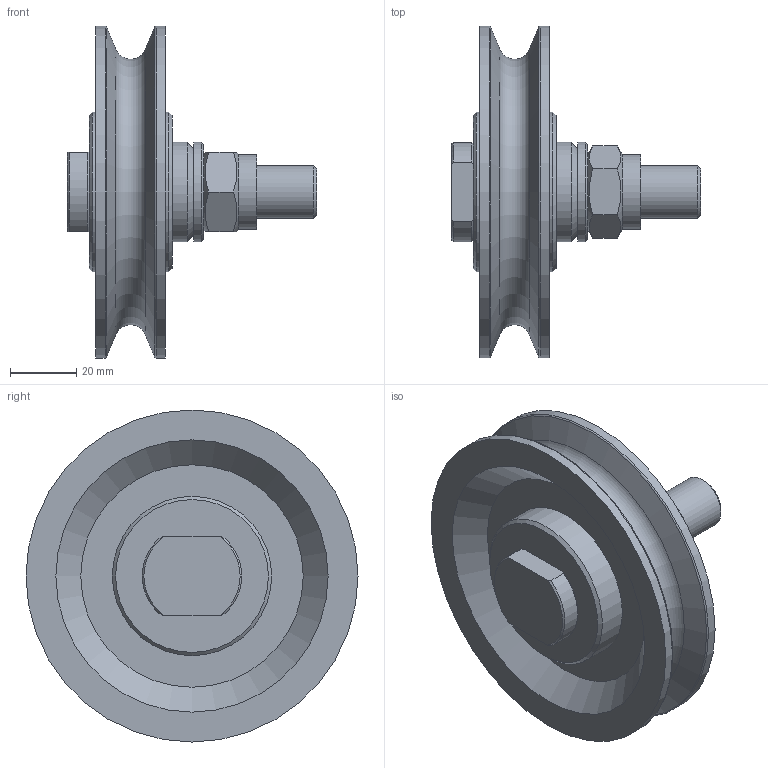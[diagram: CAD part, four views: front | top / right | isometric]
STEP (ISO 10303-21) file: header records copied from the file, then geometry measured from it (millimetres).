
FILE_DESCRIPTION(/* description */ ('Seilrolle ø100 feststehende Achse VA'),/* implementation_level */ '2;1');
FILE_NAME(/* name */ 'Z:\Workspace\03 Seilrollen\1.506 Seilrollen feststehende Achse Gleitlager\1.506.03 Seilrolle ø100 feststehende Achse GL VA\1.506.03 Seilrolle ø100 feststehende Achse VA.stp',/* time_stamp */ '2021-11-02T12:15:55+01:00',/* author */ ('cad-user'),/* organization */ (''),/* preprocessor_version */ 'ST-DEVELOPER v18',/* originating_system */ 'Autodesk Inventor 2020',/* authorisation */ '');
FILE_SCHEMA (('AUTOMOTIVE_DESIGN { 1 0 10303 214 3 1 1 }'));
Length unit declared in the file: millimetre
Products named in the file (8): 1.506.03 Seilrolle ø100 feststehende Achse VA; 1.501.03 Seilrolle ø100 VA Buchse komplett; 1.501.03 Seilrolle ø100 VA Buchse; 162025BP25; 1.506.03.02 Scheibe VA; 1.506.03.01 Schraube VA; DIN 985 - M16; DIN 125-1 - B 17
Assembly tree (7 placements, depth 3):
  1.506.03 Seilrolle ø100 feststehende Achse VA
    1.501.03 Seilrolle ø100 VA Buchse komplett
      1.501.03 Seilrolle ø100 VA Buchse
      162025BP25
    1.506.03.02 Scheibe VA
    1.506.03.01 Schraube VA
    DIN 985 - M16
    DIN 125-1 - B 17
Bounding box: 75 x 100 x 100 mm (x, y, z)
Volume: 126252.4 mm3; surface area: 44012.1 mm2
Topology: 6 solids, 6 shells, 65 faces, 159 edges, 111 vertices
Faces by surface type: plane 25, cone 21, cylinder 16, torus 3
Full cylindrical faces by diameter (mm): 13.835 x1, 16 x2, 17 x2, 20 x2, 22.5 x1, 30 x2, 48 x2, 100 x2
Entity records: 2297 total; most frequent: DIRECTION 395, CARTESIAN_POINT 391, ORIENTED_EDGE 318, AXIS2_PLACEMENT_3D 175, EDGE_CURVE 159, VERTEX_POINT 111, CIRCLE 94, EDGE_LOOP 80
